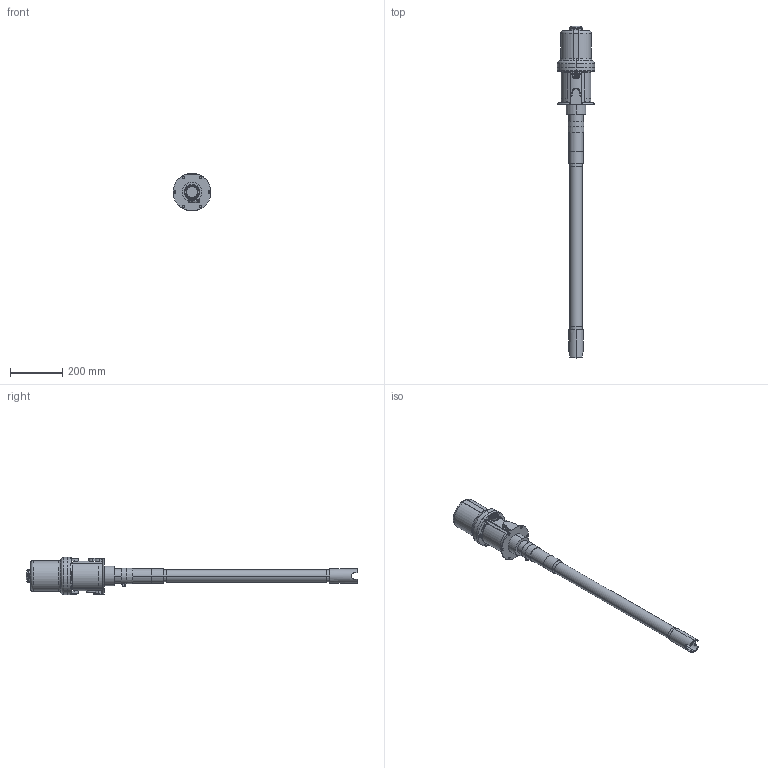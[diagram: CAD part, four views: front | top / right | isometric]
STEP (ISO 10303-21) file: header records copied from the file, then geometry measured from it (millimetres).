
FILE_DESCRIPTION((''),'2;1');
FILE_NAME('204254-EN-ZAK_PRT','2024-03-22T09:56:20',('qtmwp1'),(''),'CREO PARAMETRIC BY PTC INC, 2023424','CREO PARAMETRIC BY PTC INC, 2023424','');
FILE_SCHEMA(('CONFIG_CONTROL_DESIGN'));
Length unit declared in the file: inch
Products named in the file (1): 204254-EN-ZAK_PRT
Bounding box: 143.84 x 1266.18 x 141.6 mm (x, y, z)
Surface area: 355783.1 mm2 (no closed solid volume)
Topology: 0 solids, 34 shells, 266 faces, 920 edges, 644 vertices
Faces by surface type: cylinder 88, plane 73, cone 55, bspline 28, torus 22
Entity records: 12715 total; most frequent: CARTESIAN_POINT 5564, DIRECTION 1370, ORIENTED_EDGE 1365, EDGE_CURVE 920, VERTEX_POINT 644, AXIS2_PLACEMENT_3D 540, B_SPLINE_CURVE_WITH_KNOTS 328, CIRCLE 302
